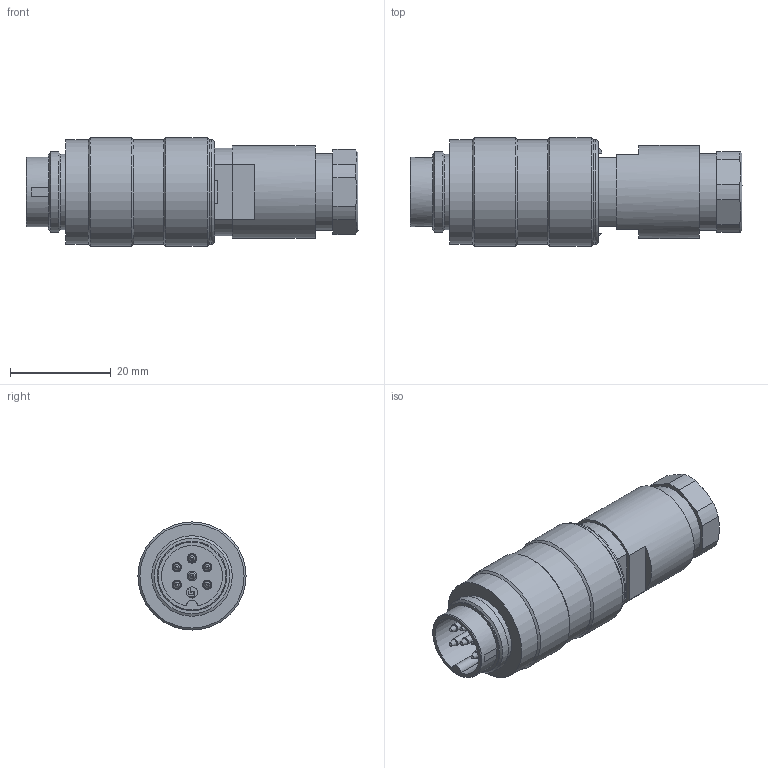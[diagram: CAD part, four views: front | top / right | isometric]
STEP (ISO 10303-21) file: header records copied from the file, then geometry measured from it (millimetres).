
FILE_DESCRIPTION(/* description */ (''),/* implementation_level */ '2;1');
FILE_NAME(/* name */ '09_0109_70_04_001_00.stp',/* time_stamp */ '2011-06-14T16:45:25+02:00',/* author */ (''),/* organization */ (''),/* preprocessor_version */ 'ST-DEVELOPER v11',/* originating_system */ 'UGS - NX 5.0',/* authorisation */ '');
FILE_SCHEMA (('CONFIG_CONTROL_DESIGN'));
Length unit declared in the file: millimetre
Products named in the file (1): kbor1061sb8i
Bounding box: 66 x 21.5 x 21.5 mm (x, y, z)
Volume: 17598.4 mm3; surface area: 5330.3 mm2
Topology: 1 solids, 1 shells, 119 faces, 272 edges, 173 vertices
Faces by surface type: plane 58, cylinder 28, cone 20, bspline 12, torus 1
Full cylindrical faces by diameter (mm): 1.49 x6, 2.25 x1, 13.8 x1, 15 x2, 15.2 x1, 16 x1, 18.5 x1, 20.7 x3, 21.5 x2
Entity records: 3316 total; most frequent: CARTESIAN_POINT 836, DIRECTION 504, ORIENTED_EDGE 410, EDGE_CURVE 205, AXIS2_PLACEMENT_3D 197, EDGE_LOOP 188, VERTEX_POINT 157, FACE_BOUND 129
